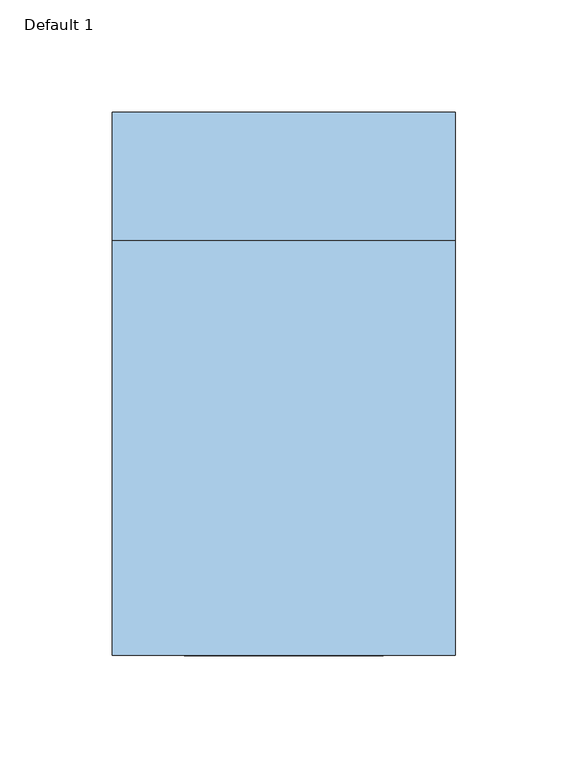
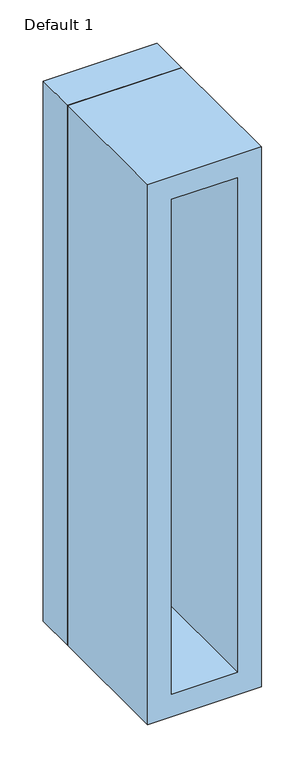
"""IFC4 building model written with IfcOpenShell, lengths in millimetres: window geometry, Planitar-Fixed : Default 1."""

from ifc_helpers import new_model, si_unit, frame, origin, place, context, project, spatial, polyline, outline, extrude, source, transform, mapped, element, save


def default_1_f4984165(model_context):
    return source(origin(), model_context, "Body", "SweptSolid", [
        extrude(outline(polyline([(1657.4, -57.2), (933.4, -57.2), (933.4, 57.2), (1657.4, 57.2), (1657.4, -57.2)]), holes=[polyline([(1613.4, -13.2), (1613.4, 13.2), (977.4, 13.2), (977.4, -13.2), (1613.4, -13.2)])]), frame((0.0, 76.95, 0.0), z_axis=(0.0, 1.0, 0.0), x_axis=(0.0, 0.0, 1.0)), (0.0, 0.0, 1.0), 44.0),
        extrude(outline(polyline([(1676.4, -76.2), (914.4, -76.2), (914.4, 76.2), (1676.4, 76.2), (1676.4, -76.2)]), holes=[polyline([(1657.4, -57.2), (1657.4, 57.2), (933.4, 57.2), (933.4, -57.2), (1657.4, -57.2)])]), frame((0.0, 76.95, 0.0), z_axis=(0.0, 1.0, 0.0), x_axis=(0.0, 0.0, 1.0)), (0.0, 0.0, 1.0), 56.7),
        extrude(outline(polyline([(1676.4, -76.2), (914.4, -76.2), (914.4, 76.2), (1676.4, 76.2), (1676.4, -76.2)]), holes=[polyline([(1644.4, -44.2), (1644.4, 44.2), (946.4, 44.2), (946.4, -44.2), (1644.4, -44.2)])]), frame((0.0, -107.65, 0.0), z_axis=(0.0, 1.0, 0.0), x_axis=(0.0, 0.0, 1.0)), (0.0, 0.0, 1.0), 184.6),
        extrude(outline(polyline([(-13.2, 104.95), (13.2, 104.95), (13.2, 92.95), (-13.2, 92.95), (-13.2, 104.95)])), frame((0.0, 0.0, 977.4), z_axis=(0.0, 0.0, 1.0), x_axis=(1.0, 0.0, 0.0)), (0.0, 0.0, 1.0), 636.0),
    ])


if __name__ == "__main__":
    model = new_model("IFC4")
    model_context = context("Model", 3, world=origin())
    ifc_project = project(units=[si_unit("LENGTHUNIT", "METRE", prefix="MILLI")], contexts=[model_context])
    site = spatial("IfcSite", under=ifc_project)
    building = spatial("IfcBuilding", under=site)
    placement = place(None, origin())
    default_1_shape = default_1_f4984165(model_context)
    element("IfcWindow", 1, ObjectType="Planitar-Fixed : Default 1", at=placement, inside=building, context=model_context, shape_type="MappedRepresentation", body=[
        mapped(default_1_shape, transform((0.0, 0.0, 0.0), x_axis=(1.0, 0.0, 0.0), y_axis=(0.0, 1.0, 0.0), z_axis=(0.0, 0.0, 1.0))),
    ])
    save(model, "model.ifc")
